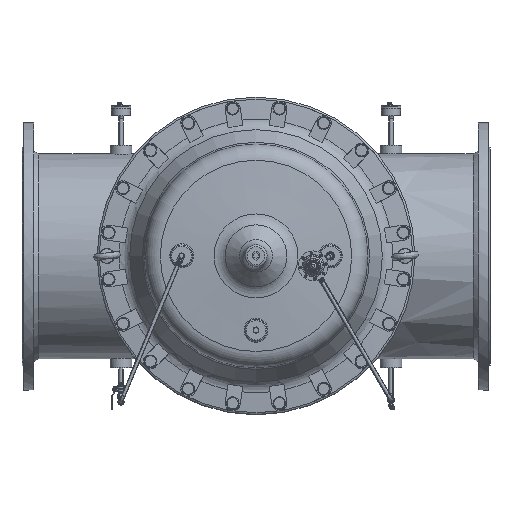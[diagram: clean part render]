
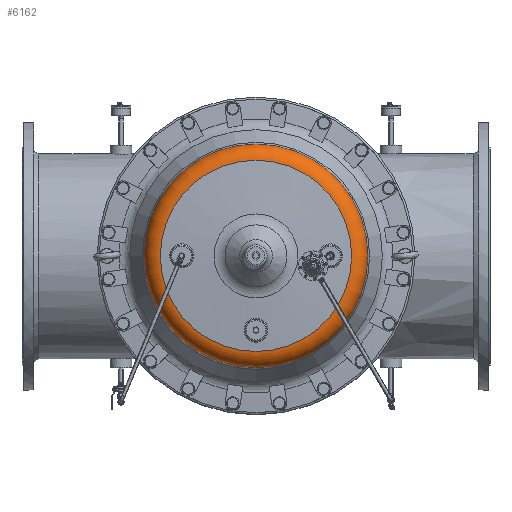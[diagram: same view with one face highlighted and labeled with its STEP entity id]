
A CAD part, top view. The second image highlights one B-rep face of the part: STEP entity #6162.
In plain terms, the highlighted toroidal (fillet/blend) face has major radius 251.375 mm and minor radius 47.25 mm.
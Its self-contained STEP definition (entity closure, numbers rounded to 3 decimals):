
#6162=ADVANCED_FACE('',(#20142,#20144),#20146,.T.);
#20142=FACE_OUTER_BOUND('',#20143,.T.);
#20143=EDGE_LOOP('',(#45460));
#20144=FACE_OUTER_BOUND('',#20145,.T.);
#20145=EDGE_LOOP('',(#45461));
#20146=TOROIDAL_SURFACE('',#20147,251.375,47.25);
#20147=AXIS2_PLACEMENT_3D('',#20148,#20149,#20150);
#20148=CARTESIAN_POINT('',(0.,-131.914,0.));
#20149=DIRECTION('',(0.,-1.,0.));
#20150=DIRECTION('',(1.,0.,0.));
#45460=ORIENTED_EDGE('',*,*,#52089,.T.);
#45461=ORIENTED_EDGE('',*,*,#52074,.F.);
#52074=EDGE_CURVE('',#56990,#56990,#56991,.T.);
#52089=EDGE_CURVE('',#57020,#57020,#57021,.T.);
#56990=VERTEX_POINT('',#81832);
#56991=CIRCLE('',#81833,255.493);
#57020=VERTEX_POINT('',#82128);
#57021=CIRCLE('',#82129,298.625);
#81832=CARTESIAN_POINT('',(255.493,-178.984,0.));
#81833=AXIS2_PLACEMENT_3D('',#81834,#81835,#81836);
#81834=CARTESIAN_POINT('',(0.,-178.984,0.));
#81835=DIRECTION('',(0.,-1.,0.));
#81836=DIRECTION('',(1.,0.,0.));
#82128=CARTESIAN_POINT('',(298.625,-131.914,0.));
#82129=AXIS2_PLACEMENT_3D('',#82130,#82131,#82132);
#82130=CARTESIAN_POINT('',(0.,-131.914,0.));
#82131=DIRECTION('',(0.,-1.,0.));
#82132=DIRECTION('',(1.,0.,0.));
